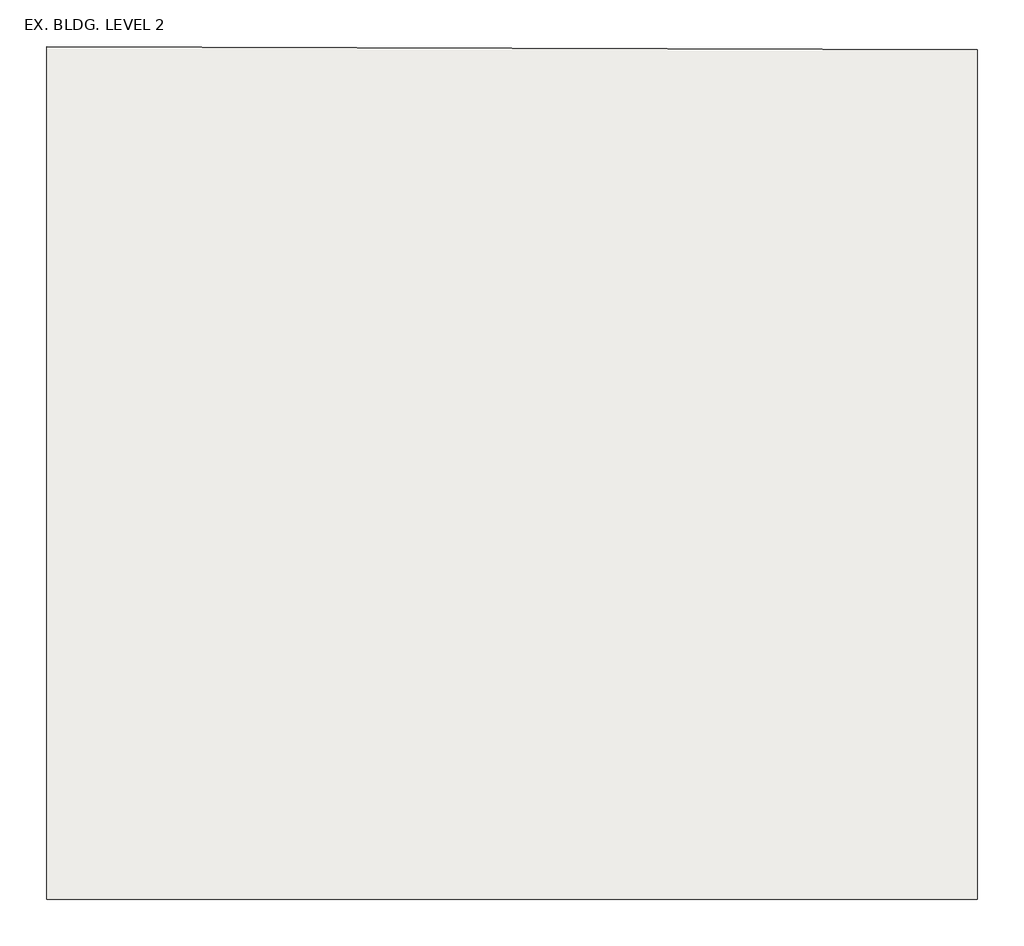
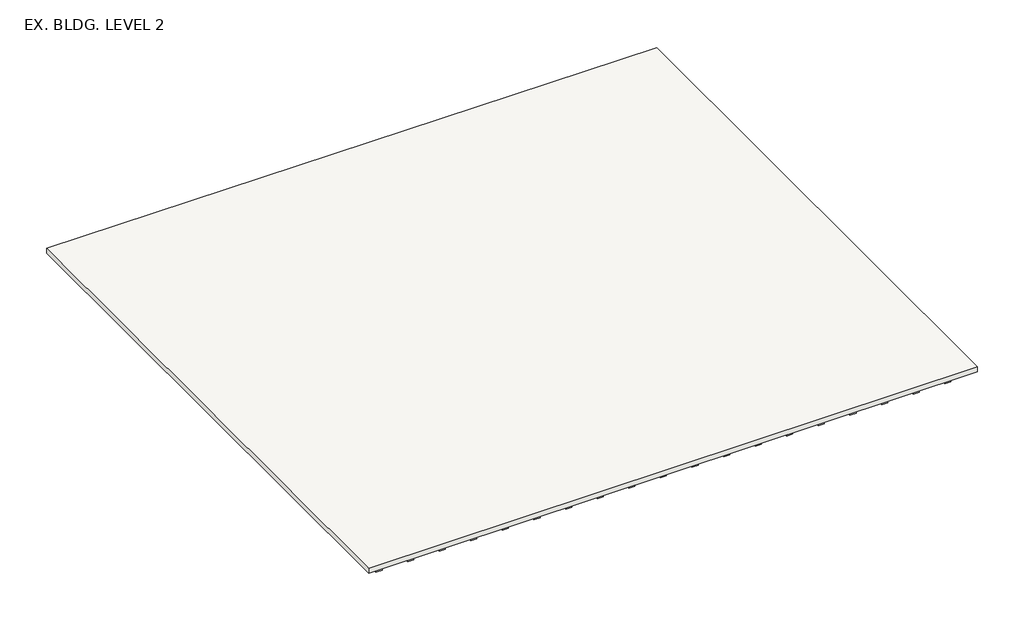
# One storey: 19 beams, 1 slab.
"""IFC4 building model written with IfcOpenShell, lengths in millimetres."""

from ifc_helpers import new_model, si_unit, frame, origin, place, context, project, spatial, polyline, outline, extrude, element, save

model = new_model("IFC4")

# Units and contexts
model_context = context("Model", 3, world=origin())
ifc_project = project(units=[si_unit("LENGTHUNIT", "METRE", prefix="MILLI")], contexts=[model_context])

# Site, building, storey
site = spatial("IfcSite", under=ifc_project)
building = spatial("IfcBuilding", under=site)
storey = spatial("IfcBuildingStorey", under=building, Name="EX. BLDG. LEVEL 2", Elevation=294830.5)

# Beams
placement = place(None, origin())
element("IfcBeam", 1, ObjectType="Concrete-Rectangular Beam : 6\"x20\" (Joists)", at=placement, inside=storey, context=model_context, shape_type="SweptSolid", body=[
    extrude(outline(polyline([(22992.0226838, 222623.6509086), (23169.8226838, 222623.6509086), (23169.8226838, 219988.1613196), (22992.0226838, 219988.1613196), (22992.0226838, 222623.6509086)])), frame((0.0, 0.0, 294144.7), z_axis=(0.0, 0.0, 1.0), x_axis=(1.0, 0.0, 0.0)), (0.0, 0.0, 1.0), 508.0),
    extrude(outline(polyline([(22992.0226838, 214277.990059), (23169.8226838, 214277.990059), (23169.8226838, 207293.760969), (22992.0226838, 207293.760969), (22992.0226838, 214277.990059)])), frame((0.0, 0.0, 294144.7), z_axis=(0.0, 0.0, 1.0), x_axis=(1.0, 0.0, 0.0)), (0.0, 0.0, 1.0), 508.0),
    extrude(outline(polyline([(23169.8226838, 215192.390059), (22992.0226838, 215192.390059), (22992.0226838, 219378.5613196), (23169.8226838, 219378.5613196), (23169.8226838, 215192.390059)])), frame((0.0, 0.0, 294144.7), z_axis=(0.0, 0.0, 1.0), x_axis=(1.0, 0.0, 0.0)), (0.0, 0.0, 1.0), 508.0),
])
element("IfcBeam", 2, ObjectType="Concrete-Rectangular Beam : 6\"x20\" (Joists)", at=placement, inside=storey, context=model_context, shape_type="SweptSolid", body=[
    extrude(outline(polyline([(23906.4226838, 222620.5851262), (24084.2226838, 222620.5851262), (24084.2226838, 219988.1613196), (23906.4226838, 219988.1613196), (23906.4226838, 222620.5851262)])), frame((0.0, 0.0, 294144.7), z_axis=(0.0, 0.0, 1.0), x_axis=(1.0, 0.0, 0.0)), (0.0, 0.0, 1.0), 508.0),
    extrude(outline(polyline([(23906.4226838, 214277.990059), (24084.2226838, 214277.990059), (24084.2226838, 207293.760969), (23906.4226838, 207293.760969), (23906.4226838, 214277.990059)])), frame((0.0, 0.0, 294144.7), z_axis=(0.0, 0.0, 1.0), x_axis=(1.0, 0.0, 0.0)), (0.0, 0.0, 1.0), 508.0),
    extrude(outline(polyline([(24084.2226838, 215192.390059), (23906.4226838, 215192.390059), (23906.4226838, 219378.5613196), (24084.2226838, 219378.5613196), (24084.2226838, 215192.390059)])), frame((0.0, 0.0, 294144.7), z_axis=(0.0, 0.0, 1.0), x_axis=(1.0, 0.0, 0.0)), (0.0, 0.0, 1.0), 508.0),
])
element("IfcBeam", 3, ObjectType="Concrete-Rectangular Beam : 6\"x20\" (Joists)", at=placement, inside=storey, context=model_context, shape_type="SweptSolid", body=[
    extrude(outline(polyline([(24820.8226838, 222617.5193437), (24998.6226838, 222617.5193437), (24998.6226838, 219988.1613196), (24820.8226838, 219988.1613196), (24820.8226838, 222617.5193437)])), frame((0.0, 0.0, 294144.7), z_axis=(0.0, 0.0, 1.0), x_axis=(1.0, 0.0, 0.0)), (0.0, 0.0, 1.0), 508.0),
    extrude(outline(polyline([(24820.8226838, 214277.990059), (24998.6226838, 214277.990059), (24998.6226838, 207293.760969), (24820.8226838, 207293.760969), (24820.8226838, 214277.990059)])), frame((0.0, 0.0, 294144.7), z_axis=(0.0, 0.0, 1.0), x_axis=(1.0, 0.0, 0.0)), (0.0, 0.0, 1.0), 508.0),
    extrude(outline(polyline([(24998.6226838, 215192.390059), (24820.8226838, 215192.390059), (24820.8226838, 219378.5613196), (24998.6226838, 219378.5613196), (24998.6226838, 215192.390059)])), frame((0.0, 0.0, 294144.7), z_axis=(0.0, 0.0, 1.0), x_axis=(1.0, 0.0, 0.0)), (0.0, 0.0, 1.0), 508.0),
])
element("IfcBeam", 4, ObjectType="Concrete-Rectangular Beam : 6\"x20\" (Joists)", at=placement, inside=storey, context=model_context, shape_type="SweptSolid", body=[
    extrude(outline(polyline([(25735.2226838, 222614.4535613), (25913.0226838, 222614.4535613), (25913.0226838, 219988.1613196), (25735.2226838, 219988.1613196), (25735.2226838, 222614.4535613)])), frame((0.0, 0.0, 294144.7), z_axis=(0.0, 0.0, 1.0), x_axis=(1.0, 0.0, 0.0)), (0.0, 0.0, 1.0), 508.0),
    extrude(outline(polyline([(25735.2226838, 214277.990059), (25913.0226838, 214277.990059), (25913.0226838, 207293.760969), (25735.2226838, 207293.760969), (25735.2226838, 214277.990059)])), frame((0.0, 0.0, 294144.7), z_axis=(0.0, 0.0, 1.0), x_axis=(1.0, 0.0, 0.0)), (0.0, 0.0, 1.0), 508.0),
    extrude(outline(polyline([(25913.0226838, 215192.390059), (25735.2226838, 215192.390059), (25735.2226838, 219378.5613196), (25913.0226838, 219378.5613196), (25913.0226838, 215192.390059)])), frame((0.0, 0.0, 294144.7), z_axis=(0.0, 0.0, 1.0), x_axis=(1.0, 0.0, 0.0)), (0.0, 0.0, 1.0), 508.0),
])
element("IfcBeam", 5, ObjectType="Concrete-Rectangular Beam : 6\"x20\" (Joists)", at=placement, inside=storey, context=model_context, shape_type="SweptSolid", body=[
    extrude(outline(polyline([(26649.6226838, 222611.3877788), (26827.4226838, 222611.3877788), (26827.4226838, 219988.1613196), (26649.6226838, 219988.1613196), (26649.6226838, 222611.3877788)])), frame((0.0, 0.0, 294144.7), z_axis=(0.0, 0.0, 1.0), x_axis=(1.0, 0.0, 0.0)), (0.0, 0.0, 1.0), 508.0),
    extrude(outline(polyline([(26649.6226838, 214277.990059), (26827.4226838, 214277.990059), (26827.4226838, 207293.760969), (26649.6226838, 207293.760969), (26649.6226838, 214277.990059)])), frame((0.0, 0.0, 294144.7), z_axis=(0.0, 0.0, 1.0), x_axis=(1.0, 0.0, 0.0)), (0.0, 0.0, 1.0), 508.0),
    extrude(outline(polyline([(26827.4226838, 215192.390059), (26649.6226838, 215192.390059), (26649.6226838, 219378.5613196), (26827.4226838, 219378.5613196), (26827.4226838, 215192.390059)])), frame((0.0, 0.0, 294144.7), z_axis=(0.0, 0.0, 1.0), x_axis=(1.0, 0.0, 0.0)), (0.0, 0.0, 1.0), 508.0),
])
element("IfcBeam", 6, ObjectType="Concrete-Rectangular Beam : 6\"x20\" (Joists)", at=placement, inside=storey, context=model_context, shape_type="SweptSolid", body=[
    extrude(outline(polyline([(27564.0226838, 222608.3219963), (27741.8226838, 222608.3219963), (27741.8226838, 219988.1613196), (27564.0226838, 219988.1613196), (27564.0226838, 222608.3219963)])), frame((0.0, 0.0, 294144.7), z_axis=(0.0, 0.0, 1.0), x_axis=(1.0, 0.0, 0.0)), (0.0, 0.0, 1.0), 508.0),
    extrude(outline(polyline([(27564.0226838, 214277.990059), (27741.8226838, 214277.990059), (27741.8226838, 207293.760969), (27564.0226838, 207293.760969), (27564.0226838, 214277.990059)])), frame((0.0, 0.0, 294144.7), z_axis=(0.0, 0.0, 1.0), x_axis=(1.0, 0.0, 0.0)), (0.0, 0.0, 1.0), 508.0),
    extrude(outline(polyline([(27741.8226838, 215192.390059), (27564.0226838, 215192.390059), (27564.0226838, 219378.5613196), (27741.8226838, 219378.5613196), (27741.8226838, 215192.390059)])), frame((0.0, 0.0, 294144.7), z_axis=(0.0, 0.0, 1.0), x_axis=(1.0, 0.0, 0.0)), (0.0, 0.0, 1.0), 508.0),
])
element("IfcBeam", 7, ObjectType="Concrete-Rectangular Beam : 6\"x20\" (Joists)", at=placement, inside=storey, context=model_context, shape_type="SweptSolid", body=[
    extrude(outline(polyline([(28478.4226838, 222605.2562139), (28656.2226838, 222605.2562139), (28656.2226838, 219988.1613196), (28478.4226838, 219988.1613196), (28478.4226838, 222605.2562139)])), frame((0.0, 0.0, 294144.7), z_axis=(0.0, 0.0, 1.0), x_axis=(1.0, 0.0, 0.0)), (0.0, 0.0, 1.0), 508.0),
    extrude(outline(polyline([(28478.4226838, 214277.990059), (28656.2226838, 214277.990059), (28656.2226838, 207293.760969), (28478.4226838, 207293.760969), (28478.4226838, 214277.990059)])), frame((0.0, 0.0, 294144.7), z_axis=(0.0, 0.0, 1.0), x_axis=(1.0, 0.0, 0.0)), (0.0, 0.0, 1.0), 508.0),
    extrude(outline(polyline([(28656.2226838, 215192.390059), (28478.4226838, 215192.390059), (28478.4226838, 219378.5613196), (28656.2226838, 219378.5613196), (28656.2226838, 215192.390059)])), frame((0.0, 0.0, 294144.7), z_axis=(0.0, 0.0, 1.0), x_axis=(1.0, 0.0, 0.0)), (0.0, 0.0, 1.0), 508.0),
])
element("IfcBeam", 8, ObjectType="Concrete-Rectangular Beam : 6\"x20\" (Joists)", at=placement, inside=storey, context=model_context, shape_type="SweptSolid", body=[
    extrude(outline(polyline([(29392.8226838, 222602.1904314), (29570.6226838, 222602.1904314), (29570.6226838, 219988.1613196), (29392.8226838, 219988.1613196), (29392.8226838, 222602.1904314)])), frame((0.0, 0.0, 294144.7), z_axis=(0.0, 0.0, 1.0), x_axis=(1.0, 0.0, 0.0)), (0.0, 0.0, 1.0), 508.0),
    extrude(outline(polyline([(29392.8226838, 214277.990059), (29570.6226838, 214277.990059), (29570.6226838, 207293.760969), (29392.8226838, 207293.760969), (29392.8226838, 214277.990059)])), frame((0.0, 0.0, 294144.7), z_axis=(0.0, 0.0, 1.0), x_axis=(1.0, 0.0, 0.0)), (0.0, 0.0, 1.0), 508.0),
    extrude(outline(polyline([(29570.6226838, 215192.390059), (29392.8226838, 215192.390059), (29392.8226838, 219378.5613196), (29570.6226838, 219378.5613196), (29570.6226838, 215192.390059)])), frame((0.0, 0.0, 294144.7), z_axis=(0.0, 0.0, 1.0), x_axis=(1.0, 0.0, 0.0)), (0.0, 0.0, 1.0), 508.0),
])
element("IfcBeam", 9, ObjectType="Concrete-Rectangular Beam : 6\"x20\" (Joists)", at=placement, inside=storey, context=model_context, shape_type="SweptSolid", body=[
    extrude(outline(polyline([(30307.2226838, 222599.1246489), (30485.0226838, 222599.1246489), (30485.0226838, 219988.1613196), (30307.2226838, 219988.1613196), (30307.2226838, 222599.1246489)])), frame((0.0, 0.0, 294144.7), z_axis=(0.0, 0.0, 1.0), x_axis=(1.0, 0.0, 0.0)), (0.0, 0.0, 1.0), 508.0),
    extrude(outline(polyline([(30307.2226838, 214277.990059), (30485.0226838, 214277.990059), (30485.0226838, 207293.760969), (30307.2226838, 207293.760969), (30307.2226838, 214277.990059)])), frame((0.0, 0.0, 294144.7), z_axis=(0.0, 0.0, 1.0), x_axis=(1.0, 0.0, 0.0)), (0.0, 0.0, 1.0), 508.0),
    extrude(outline(polyline([(30485.0226838, 215192.390059), (30307.2226838, 215192.390059), (30307.2226838, 219378.5613196), (30485.0226838, 219378.5613196), (30485.0226838, 215192.390059)])), frame((0.0, 0.0, 294144.7), z_axis=(0.0, 0.0, 1.0), x_axis=(1.0, 0.0, 0.0)), (0.0, 0.0, 1.0), 508.0),
])
element("IfcBeam", 10, ObjectType="Concrete-Rectangular Beam : 6\"x20\" (Joists)", at=placement, inside=storey, context=model_context, shape_type="SweptSolid", body=[
    extrude(outline(polyline([(31221.6226838, 222596.0588665), (31399.4226838, 222596.0588665), (31399.4226838, 219988.1613196), (31221.6226838, 219988.1613196), (31221.6226838, 222596.0588665)])), frame((0.0, 0.0, 294144.7), z_axis=(0.0, 0.0, 1.0), x_axis=(1.0, 0.0, 0.0)), (0.0, 0.0, 1.0), 508.0),
    extrude(outline(polyline([(31221.6226838, 214277.990059), (31399.4226838, 214277.990059), (31399.4226838, 207293.760969), (31221.6226838, 207293.760969), (31221.6226838, 214277.990059)])), frame((0.0, 0.0, 294144.7), z_axis=(0.0, 0.0, 1.0), x_axis=(1.0, 0.0, 0.0)), (0.0, 0.0, 1.0), 508.0),
    extrude(outline(polyline([(31399.4226838, 215192.390059), (31221.6226838, 215192.390059), (31221.6226838, 219378.5613196), (31399.4226838, 219378.5613196), (31399.4226838, 215192.390059)])), frame((0.0, 0.0, 294144.7), z_axis=(0.0, 0.0, 1.0), x_axis=(1.0, 0.0, 0.0)), (0.0, 0.0, 1.0), 508.0),
])
element("IfcBeam", 11, ObjectType="Concrete-Rectangular Beam : 6\"x20\" (Joists)", at=placement, inside=storey, context=model_context, shape_type="SweptSolid", body=[
    extrude(outline(polyline([(32136.0226838, 222592.993084), (32313.8226838, 222592.993084), (32313.8226838, 219988.1613196), (32136.0226838, 219988.1613196), (32136.0226838, 222592.993084)])), frame((0.0, 0.0, 294144.7), z_axis=(0.0, 0.0, 1.0), x_axis=(1.0, 0.0, 0.0)), (0.0, 0.0, 1.0), 508.0),
    extrude(outline(polyline([(32136.0226838, 214277.990059), (32313.8226838, 214277.990059), (32313.8226838, 207293.760969), (32136.0226838, 207293.760969), (32136.0226838, 214277.990059)])), frame((0.0, 0.0, 294144.7), z_axis=(0.0, 0.0, 1.0), x_axis=(1.0, 0.0, 0.0)), (0.0, 0.0, 1.0), 508.0),
    extrude(outline(polyline([(32313.8226838, 215192.390059), (32136.0226838, 215192.390059), (32136.0226838, 219378.5613196), (32313.8226838, 219378.5613196), (32313.8226838, 215192.390059)])), frame((0.0, 0.0, 294144.7), z_axis=(0.0, 0.0, 1.0), x_axis=(1.0, 0.0, 0.0)), (0.0, 0.0, 1.0), 508.0),
])
element("IfcBeam", 12, ObjectType="Concrete-Rectangular Beam : 6\"x20\" (Joists)", at=placement, inside=storey, context=model_context, shape_type="SweptSolid", body=[
    extrude(outline(polyline([(33050.4226838, 222589.9273016), (33228.2226838, 222589.9273016), (33228.2226838, 219988.1613196), (33050.4226838, 219988.1613196), (33050.4226838, 222589.9273016)])), frame((0.0, 0.0, 294144.7), z_axis=(0.0, 0.0, 1.0), x_axis=(1.0, 0.0, 0.0)), (0.0, 0.0, 1.0), 508.0),
    extrude(outline(polyline([(33050.4226838, 214277.990059), (33228.2226838, 214277.990059), (33228.2226838, 207293.760969), (33050.4226838, 207293.760969), (33050.4226838, 214277.990059)])), frame((0.0, 0.0, 294144.7), z_axis=(0.0, 0.0, 1.0), x_axis=(1.0, 0.0, 0.0)), (0.0, 0.0, 1.0), 508.0),
    extrude(outline(polyline([(33228.2226838, 215192.390059), (33050.4226838, 215192.390059), (33050.4226838, 219378.5613196), (33228.2226838, 219378.5613196), (33228.2226838, 215192.390059)])), frame((0.0, 0.0, 294144.7), z_axis=(0.0, 0.0, 1.0), x_axis=(1.0, 0.0, 0.0)), (0.0, 0.0, 1.0), 508.0),
])
element("IfcBeam", 13, ObjectType="Concrete-Rectangular Beam : 6\"x20\" (Joists)", at=placement, inside=storey, context=model_context, shape_type="SweptSolid", body=[
    extrude(outline(polyline([(33964.8226838, 222586.8615191), (34142.6226838, 222586.8615191), (34142.6226838, 219988.1613196), (33964.8226838, 219988.1613196), (33964.8226838, 222586.8615191)])), frame((0.0, 0.0, 294144.7), z_axis=(0.0, 0.0, 1.0), x_axis=(1.0, 0.0, 0.0)), (0.0, 0.0, 1.0), 508.0),
    extrude(outline(polyline([(33964.8226838, 214277.990059), (34142.6226838, 214277.990059), (34142.6226838, 207293.760969), (33964.8226838, 207293.760969), (33964.8226838, 214277.990059)])), frame((0.0, 0.0, 294144.7), z_axis=(0.0, 0.0, 1.0), x_axis=(1.0, 0.0, 0.0)), (0.0, 0.0, 1.0), 508.0),
    extrude(outline(polyline([(34142.6226838, 215192.390059), (33964.8226838, 215192.390059), (33964.8226838, 219378.5613196), (34142.6226838, 219378.5613196), (34142.6226838, 215192.390059)])), frame((0.0, 0.0, 294144.7), z_axis=(0.0, 0.0, 1.0), x_axis=(1.0, 0.0, 0.0)), (0.0, 0.0, 1.0), 508.0),
])
element("IfcBeam", 14, ObjectType="Concrete-Rectangular Beam : 6\"x20\" (Joists)", at=placement, inside=storey, context=model_context, shape_type="SweptSolid", body=[
    extrude(outline(polyline([(34879.2226838, 222583.7957366), (35057.0226838, 222583.7957366), (35057.0226838, 219988.1613196), (34879.2226838, 219988.1613196), (34879.2226838, 222583.7957366)])), frame((0.0, 0.0, 294144.7), z_axis=(0.0, 0.0, 1.0), x_axis=(1.0, 0.0, 0.0)), (0.0, 0.0, 1.0), 508.0),
    extrude(outline(polyline([(34879.2226838, 214277.990059), (35057.0226838, 214277.990059), (35057.0226838, 207293.760969), (34879.2226838, 207293.760969), (34879.2226838, 214277.990059)])), frame((0.0, 0.0, 294144.7), z_axis=(0.0, 0.0, 1.0), x_axis=(1.0, 0.0, 0.0)), (0.0, 0.0, 1.0), 508.0),
    extrude(outline(polyline([(35057.0226838, 215192.390059), (34879.2226838, 215192.390059), (34879.2226838, 219378.5613196), (35057.0226838, 219378.5613196), (35057.0226838, 215192.390059)])), frame((0.0, 0.0, 294144.7), z_axis=(0.0, 0.0, 1.0), x_axis=(1.0, 0.0, 0.0)), (0.0, 0.0, 1.0), 508.0),
])
element("IfcBeam", 15, ObjectType="Concrete-Rectangular Beam : 6\"x20\" (Joists)", at=placement, inside=storey, context=model_context, shape_type="SweptSolid", body=[
    extrude(outline(polyline([(35793.6226838, 222580.7299542), (35971.4226838, 222580.7299542), (35971.4226838, 219988.1613196), (35793.6226838, 219988.1613196), (35793.6226838, 222580.7299542)])), frame((0.0, 0.0, 294144.7), z_axis=(0.0, 0.0, 1.0), x_axis=(1.0, 0.0, 0.0)), (0.0, 0.0, 1.0), 508.0),
    extrude(outline(polyline([(35793.6226838, 214277.990059), (35971.4226838, 214277.990059), (35971.4226838, 207293.760969), (35793.6226838, 207293.760969), (35793.6226838, 214277.990059)])), frame((0.0, 0.0, 294144.7), z_axis=(0.0, 0.0, 1.0), x_axis=(1.0, 0.0, 0.0)), (0.0, 0.0, 1.0), 508.0),
    extrude(outline(polyline([(35971.4226838, 215192.390059), (35793.6226838, 215192.390059), (35793.6226838, 219378.5613196), (35971.4226838, 219378.5613196), (35971.4226838, 215192.390059)])), frame((0.0, 0.0, 294144.7), z_axis=(0.0, 0.0, 1.0), x_axis=(1.0, 0.0, 0.0)), (0.0, 0.0, 1.0), 508.0),
])
element("IfcBeam", 16, ObjectType="Concrete-Rectangular Beam : 6\"x20\" (Joists)", at=placement, inside=storey, context=model_context, shape_type="SweptSolid", body=[
    extrude(outline(polyline([(36708.0226838, 222577.6641717), (36885.8226838, 222577.6641717), (36885.8226838, 219988.1613196), (36708.0226838, 219988.1613196), (36708.0226838, 222577.6641717)])), frame((0.0, 0.0, 294144.7), z_axis=(0.0, 0.0, 1.0), x_axis=(1.0, 0.0, 0.0)), (0.0, 0.0, 1.0), 508.0),
    extrude(outline(polyline([(36708.0226838, 214277.990059), (36885.8226838, 214277.990059), (36885.8226838, 207293.760969), (36708.0226838, 207293.760969), (36708.0226838, 214277.990059)])), frame((0.0, 0.0, 294144.7), z_axis=(0.0, 0.0, 1.0), x_axis=(1.0, 0.0, 0.0)), (0.0, 0.0, 1.0), 508.0),
    extrude(outline(polyline([(36885.8226838, 215192.390059), (36708.0226838, 215192.390059), (36708.0226838, 219378.5613196), (36885.8226838, 219378.5613196), (36885.8226838, 215192.390059)])), frame((0.0, 0.0, 294144.7), z_axis=(0.0, 0.0, 1.0), x_axis=(1.0, 0.0, 0.0)), (0.0, 0.0, 1.0), 508.0),
])
element("IfcBeam", 17, ObjectType="Concrete-Rectangular Beam : 6\"x20\" (Joists)", at=placement, inside=storey, context=model_context, shape_type="SweptSolid", body=[
    extrude(outline(polyline([(37622.4226838, 222574.5983893), (37800.2226838, 222574.5983893), (37800.2226838, 219988.1613196), (37622.4226838, 219988.1613196), (37622.4226838, 222574.5983893)])), frame((0.0, 0.0, 294144.7), z_axis=(0.0, 0.0, 1.0), x_axis=(1.0, 0.0, 0.0)), (0.0, 0.0, 1.0), 508.0),
    extrude(outline(polyline([(37622.4226838, 214277.990059), (37800.2226838, 214277.990059), (37800.2226838, 207293.760969), (37622.4226838, 207293.760969), (37622.4226838, 214277.990059)])), frame((0.0, 0.0, 294144.7), z_axis=(0.0, 0.0, 1.0), x_axis=(1.0, 0.0, 0.0)), (0.0, 0.0, 1.0), 508.0),
    extrude(outline(polyline([(37800.2226838, 215192.390059), (37622.4226838, 215192.390059), (37622.4226838, 219378.5613196), (37800.2226838, 219378.5613196), (37800.2226838, 215192.390059)])), frame((0.0, 0.0, 294144.7), z_axis=(0.0, 0.0, 1.0), x_axis=(1.0, 0.0, 0.0)), (0.0, 0.0, 1.0), 508.0),
])
element("IfcBeam", 18, ObjectType="Concrete-Rectangular Beam : 6\"x20\" (Joists)", at=placement, inside=storey, context=model_context, shape_type="SweptSolid", body=[
    extrude(outline(polyline([(38536.8226838, 222571.5326068), (38714.6226838, 222571.5326068), (38714.6226838, 219988.1613196), (38536.8226838, 219988.1613196), (38536.8226838, 222571.5326068)])), frame((0.0, 0.0, 294144.7), z_axis=(0.0, 0.0, 1.0), x_axis=(1.0, 0.0, 0.0)), (0.0, 0.0, 1.0), 508.0),
    extrude(outline(polyline([(38536.8226838, 214277.990059), (38714.6226838, 214277.990059), (38714.6226838, 207293.760969), (38536.8226838, 207293.760969), (38536.8226838, 214277.990059)])), frame((0.0, 0.0, 294144.7), z_axis=(0.0, 0.0, 1.0), x_axis=(1.0, 0.0, 0.0)), (0.0, 0.0, 1.0), 508.0),
    extrude(outline(polyline([(38714.6226838, 215192.390059), (38536.8226838, 215192.390059), (38536.8226838, 219378.5613196), (38714.6226838, 219378.5613196), (38714.6226838, 215192.390059)])), frame((0.0, 0.0, 294144.7), z_axis=(0.0, 0.0, 1.0), x_axis=(1.0, 0.0, 0.0)), (0.0, 0.0, 1.0), 508.0),
])
element("IfcBeam", 19, ObjectType="Concrete-Rectangular Beam : 6\"x20\" (Joists)", at=placement, inside=storey, context=model_context, shape_type="SweptSolid", body=[
    extrude(outline(polyline([(39451.2226838, 222568.4668243), (39629.0226838, 222568.4668243), (39629.0226838, 219988.1613196), (39451.2226838, 219988.1613196), (39451.2226838, 222568.4668243)])), frame((0.0, 0.0, 294144.7), z_axis=(0.0, 0.0, 1.0), x_axis=(1.0, 0.0, 0.0)), (0.0, 0.0, 1.0), 508.0),
    extrude(outline(polyline([(39451.2226838, 214277.990059), (39629.0226838, 214277.990059), (39629.0226838, 207293.760969), (39451.2226838, 207293.760969), (39451.2226838, 214277.990059)])), frame((0.0, 0.0, 294144.7), z_axis=(0.0, 0.0, 1.0), x_axis=(1.0, 0.0, 0.0)), (0.0, 0.0, 1.0), 508.0),
    extrude(outline(polyline([(39629.0226838, 215192.390059), (39451.2226838, 215192.390059), (39451.2226838, 219378.5613196), (39629.0226838, 219378.5613196), (39629.0226838, 215192.390059)])), frame((0.0, 0.0, 294144.7), z_axis=(0.0, 0.0, 1.0), x_axis=(1.0, 0.0, 0.0)), (0.0, 0.0, 1.0), 508.0),
])

# Slab
element("IfcSlab", 20, ObjectType="6\" Concrete Slab", at=placement, inside=storey, context=model_context, shape_type="SweptSolid", body=[
    extrude(outline(polyline([(40046.2390585, 222769.0331604), (40046.2390585, 206684.160969), (22428.9044304, 206684.160969), (22428.9044304, 222828.1002158), (40046.2390585, 222769.0331604)])), frame((0.0, 0.0, 294678.1), z_axis=(0.0, 0.0, 1.0), x_axis=(1.0, 0.0, 0.0)), (0.0, 0.0, 1.0), 152.4),
])

save(model, "model.ifc")
